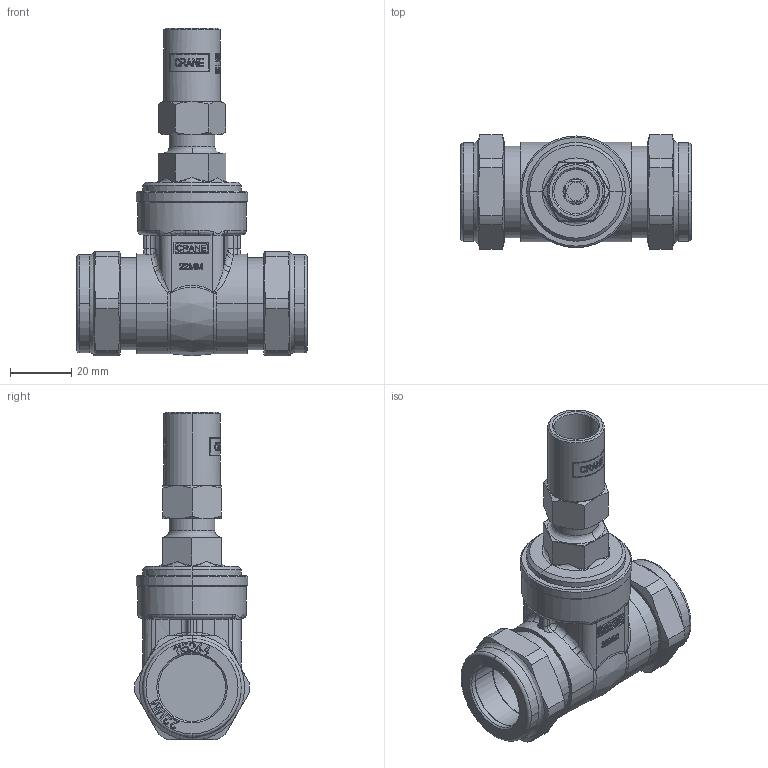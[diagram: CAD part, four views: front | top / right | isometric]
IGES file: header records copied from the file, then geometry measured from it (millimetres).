
Global section: file name: No Iges File Name specified; native system: AutoDesk Inventor R12.0; preprocessor: AutoDesk Inventor Iges Exporter R12.0; date: 20110314.103856; units: millimetre
Bounding box: 75.53 x 37.46 x 107 mm (x, y, z)
Volume: 80834.4 mm3; surface area: 24316.5 mm2
Topology: 1 solids, 3 shells, 1363 faces, 3596 edges, 2337 vertices
Faces by surface type: plane 561, bspline 534, cylinder 144, revolution 60, cone 44, torus 20
